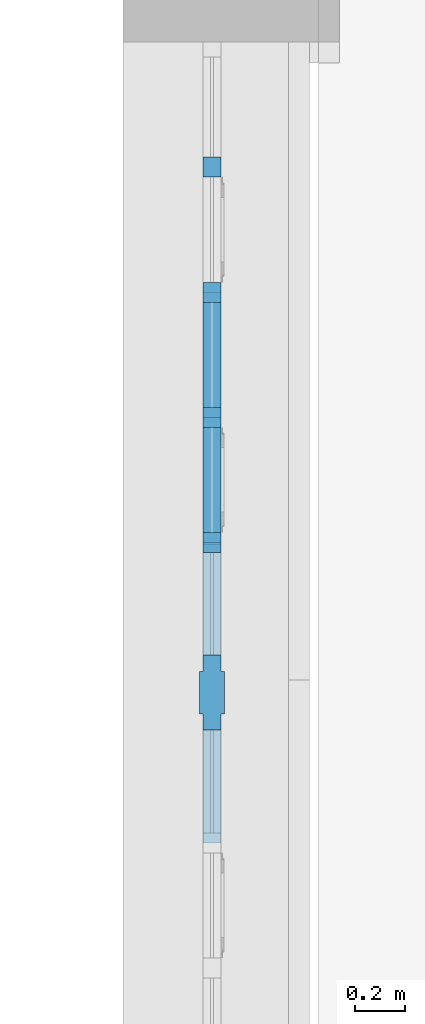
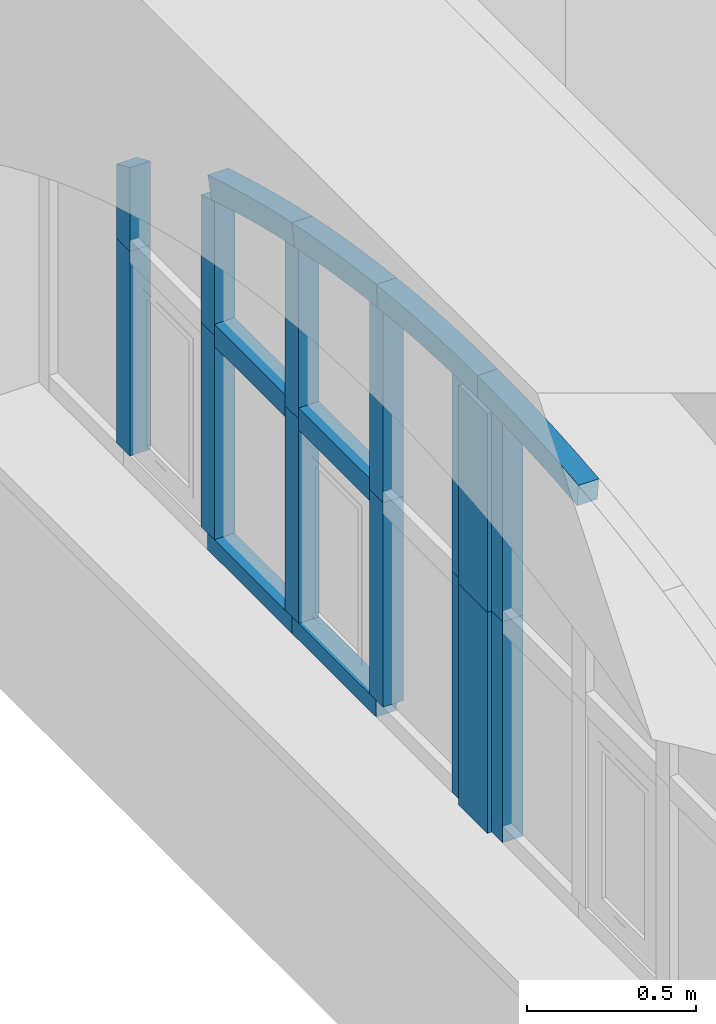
# One storey, part 16 of 32: 18 members, 1 element without a shape of its own.
"""IFC2X3 building model written with IfcOpenShell, lengths in millimetres."""

import ifcopenshell
import ifcopenshell.guid

model = None  # the IFC model being written
_history = None  # IfcOwnerHistory: only IFC2X3 demands one
_inside = {}  # id of a spatial element -> (the spatial element, [elements in it])
_under = {}  # id of a project, library or spatial element -> (it, [spatial elements below it])
_declared = {}  # id of a project -> (the project, [libraries it declares])
_typed = {}  # id of a type object -> (the type object, [elements of that type])
_made_of = {}  # id of a material, layer set ... -> (it, [elements and type objects made of it])


def new_model(schema):
    """Start an empty IFC model of exactly this schema.

    Asked for "IFC4X3", IfcOpenShell would pick the latest addendum, in which some entities
    have other attributes; the version numbers below select the first issue.
    IFC2X3 requires an IfcOwnerHistory on every rooted entity: one is made here for all.
    """
    global model, _history
    if schema == "IFC4X3":
        model = ifcopenshell.file(schema_version=(4, 3, 0, 0))
    else:
        model = ifcopenshell.file(schema=schema)
    _inside.clear()
    _under.clear()
    _declared.clear()
    _typed.clear()
    _made_of.clear()
    _history = None
    if model.schema == "IFC2X3":
        org = make("IfcOrganization", Name="unknown")
        user = make(
            "IfcPersonAndOrganization",
            ThePerson=make("IfcPerson", FamilyName="unknown"),
            TheOrganization=org,
        )
        app = make(
            "IfcApplication",
            ApplicationDeveloper=org,
            Version="unknown",
            ApplicationFullName="unknown",
            ApplicationIdentifier="unknown",
        )
        _history = make(
            "IfcOwnerHistory",
            OwningUser=user,
            OwningApplication=app,
            ChangeAction="ADDED",
            CreationDate=0,
        )
    return model


def make(cls, **values):
    """One entity of the class cls with the attributes given. An attribute that is None is left unset."""
    return model.create_entity(
        cls, **{name: value for name, value in values.items() if value is not None}
    )


def entity(cls, *values):
    """Any entity or typed value of the class cls, its attributes in the order of the schema. None: left unset."""
    e = model.create_entity(cls)
    for i, value in enumerate(values):
        if value is not None:
            e[i] = value
    return e


def rooted(cls, **values):
    """An entity with a GlobalId (a new one), such as an element, a storey or a relation."""
    return make(cls, GlobalId=ifcopenshell.guid.new(), OwnerHistory=_history, **values)


def si_unit(unit_type, name, prefix=None):
    """IfcSIUnit, for example si_unit("LENGTHUNIT", "METRE", prefix="MILLI")."""
    return make("IfcSIUnit", UnitType=unit_type, Prefix=prefix, Name=name)


def converted_unit(unit_type, name, factor, base, dimensions=None, offset=None):
    """IfcConversionBasedUnit, such as the inch: factor (a typed value) times the base unit."""
    return make(
        "IfcConversionBasedUnit"
        if offset is None
        else "IfcConversionBasedUnitWithOffset",
        ConversionOffset=offset,
        Dimensions=None
        if dimensions is None
        else entity("IfcDimensionalExponents", *dimensions),
        UnitType=unit_type,
        Name=name,
        ConversionFactor=make(
            "IfcMeasureWithUnit", ValueComponent=factor, UnitComponent=base
        ),
    )


def derived_unit(unit_type, elements):
    """IfcDerivedUnit: a product of units, each with its exponent."""
    return make(
        "IfcDerivedUnit",
        Elements=[
            make("IfcDerivedUnitElement", Unit=unit, Exponent=power)
            for unit, power in elements
        ],
        UnitType=unit_type,
    )


def assignment(units):
    """IfcUnitAssignment: the units of a project."""
    return None if units is None else make("IfcUnitAssignment", Units=units)


def point(xyz):
    """IfcCartesianPoint."""
    return None if xyz is None else make("IfcCartesianPoint", Coordinates=xyz)


def direction(xyz):
    """IfcDirection."""
    return None if xyz is None else make("IfcDirection", DirectionRatios=xyz)


def frame(location, z_axis=None, x_axis=None):
    """IfcAxis2Placement3D, a coordinate frame: its origin and axes. An axis left out is left unset."""
    return make(
        "IfcAxis2Placement3D",
        Location=point(location),
        Axis=direction(z_axis),
        RefDirection=direction(x_axis),
    )


def frame_2d(location, x_axis=None):
    """IfcAxis2Placement2D, a coordinate frame in the plane: its origin and x axis."""
    return make(
        "IfcAxis2Placement2D", Location=point(location), RefDirection=direction(x_axis)
    )


def origin():
    """The frame at (0, 0, 0) with its axes left unset."""
    return frame((0.0, 0.0, 0.0))


def place(relative_to, where):
    """IfcLocalPlacement: puts the frame where relative to a parent placement (None: the world)."""
    return make(
        "IfcLocalPlacement", PlacementRelTo=relative_to, RelativePlacement=where
    )


def context(
    kind, dimensions, precision=None, world=None, true_north=None, identifier=None
):
    """IfcGeometricRepresentationContext, for example the 3D "Model" context."""
    return make(
        "IfcGeometricRepresentationContext",
        ContextIdentifier=identifier,
        ContextType=kind,
        CoordinateSpaceDimension=dimensions,
        Precision=precision,
        WorldCoordinateSystem=world,
        TrueNorth=true_north,
    )


def subcontext(parent, identifier, kind, view, scale=None):
    """IfcGeometricRepresentationSubContext, for example "Body" below "Model"."""
    return make(
        "IfcGeometricRepresentationSubContext",
        ContextIdentifier=identifier,
        ContextType=kind,
        ParentContext=parent,
        TargetScale=scale,
        TargetView=view,
    )


def project(units=None, contexts=None):
    """IfcProject with its units and contexts."""
    return rooted(
        "IfcProject",
        Name="project",
        RepresentationContexts=contexts,
        UnitsInContext=assignment(units),
    )


def spatial(cls, under=None, at=None, **own):
    """A site, building, storey or space (cls), placed at a placement, below another one or the project."""
    s = rooted(cls, ObjectPlacement=at, **own)
    if under is not None:
        _under.setdefault(under.id(), (under, []))[1].append(s)
    return s


def polyline(points):
    """IfcPolyline through the points."""
    return make("IfcPolyline", Points=[point(p) for p in points])


def circle_curve(where, radius):
    """IfcCircle in the frame where."""
    return make("IfcCircle", Position=where, Radius=radius)


def parameter(value):
    """IfcParameterValue: where a trimmed curve begins or ends, as a parameter of its basis curve."""
    return model.create_entity("IfcParameterValue", value)


def trimmed(basis, trim1, trim2, sense, master):
    """IfcTrimmedCurve: the piece of a basis curve between two trims."""
    return make(
        "IfcTrimmedCurve",
        BasisCurve=basis,
        Trim1=trim1,
        Trim2=trim2,
        SenseAgreement=sense,
        MasterRepresentation=master,
    )


def segment(curve, same_sense, transition):
    """IfcCompositeCurveSegment."""
    return make(
        "IfcCompositeCurveSegment",
        Transition=transition,
        SameSense=same_sense,
        ParentCurve=curve,
    )


def composite_curve(segments, self_intersect=None):
    """IfcCompositeCurve: segments joined end to end."""
    return make("IfcCompositeCurve", Segments=segments, SelfIntersect=self_intersect)


def profile(cls, at=None, kind="AREA", **sizes):
    """A parametric profile (cls). Its sizes go by their IFC names, for example OverallWidth=200.0."""
    return make(cls, ProfileType=kind, Position=at, **sizes)


def rectangle(**sizes):
    """IfcRectangleProfileDef."""
    return profile("IfcRectangleProfileDef", **sizes)


def outline(outer, holes=None, kind="AREA"):
    """IfcArbitraryClosedProfileDef: a profile drawn as a closed curve; with holes, ...WithVoids."""
    if holes is None:
        return make("IfcArbitraryClosedProfileDef", ProfileType=kind, OuterCurve=outer)
    return make(
        "IfcArbitraryProfileDefWithVoids",
        ProfileType=kind,
        OuterCurve=outer,
        InnerCurves=holes,
    )


def extrude(swept, where, along, depth):
    """IfcExtrudedAreaSolid: the profile swept, set in the frame where, extruded along a direction by depth."""
    return make(
        "IfcExtrudedAreaSolid",
        SweptArea=swept,
        Position=where,
        ExtrudedDirection=direction(along),
        Depth=depth,
    )


def faces_of(points, faces, orient=None, outer=None):
    """IfcFace entities. A face is a list of loops; a loop is a list of indices into points, from 0.

    orient and outer hold one flag for each loop. By default every Orientation is true, the
    first loop of a face is its IfcFaceOuterBound and the others are IfcFaceBound.
    """
    made = []
    for i, loops in enumerate(faces):
        bounds = []
        for j, loop in enumerate(loops):
            is_outer = j == 0 if outer is None else outer[i][j]
            bounds.append(
                make(
                    "IfcFaceOuterBound" if is_outer else "IfcFaceBound",
                    Bound=make("IfcPolyLoop", Polygon=[points[k] for k in loop]),
                    Orientation=True if orient is None else orient[i][j],
                )
            )
        made.append(make("IfcFace", Bounds=bounds))
    return made


def faceted_brep(points, faces, orient=None, outer=None, voids=None):
    """IfcFacetedBrep: a solid bounded by flat faces; with voids (closed shells), ...WithVoids."""
    shared = [point(p) for p in points]
    hull = make("IfcClosedShell", CfsFaces=faces_of(shared, faces, orient, outer))
    if voids is None:
        return make("IfcFacetedBrep", Outer=hull)
    return make(
        "IfcFacetedBrepWithVoids",
        Outer=hull,
        Voids=[
            make(cls, CfsFaces=faces_of(shared, fs, o, b)) for cls, fs, o, b in voids
        ],
    )


def shape(context_of_items, identifier, shape_type, items):
    """IfcShapeRepresentation: the items that make up one representation, for example the "Body"."""
    return make(
        "IfcShapeRepresentation",
        ContextOfItems=context_of_items,
        RepresentationIdentifier=identifier,
        RepresentationType=shape_type,
        Items=items,
    )


def source(mapping_origin, context_of_items, identifier, shape_type, items):
    """IfcRepresentationMap: a shape defined once, which mapped items show again and again."""
    return make(
        "IfcRepresentationMap",
        MappingOrigin=mapping_origin,
        MappedRepresentation=shape(context_of_items, identifier, shape_type, items),
    )


def transform(
    local_origin,
    x_axis=None,
    y_axis=None,
    z_axis=None,
    scale=None,
    scale2=None,
    scale3=None,
    uniform=True,
):
    """IfcCartesianTransformationOperator3D, or its non-uniform kind. x_axis, y_axis, z_axis: its Axis1, 2, 3."""
    if uniform:
        return make(
            "IfcCartesianTransformationOperator3D",
            Axis1=direction(x_axis),
            Axis2=direction(y_axis),
            LocalOrigin=point(local_origin),
            Scale=scale,
            Axis3=direction(z_axis),
        )
    return make(
        "IfcCartesianTransformationOperator3DnonUniform",
        Axis1=direction(x_axis),
        Axis2=direction(y_axis),
        LocalOrigin=point(local_origin),
        Scale=scale,
        Axis3=direction(z_axis),
        Scale2=scale2,
        Scale3=scale3,
    )


def mapped(mapping_source, mapping_target):
    """IfcMappedItem: shows the shape of a source again, moved by a transform."""
    return make(
        "IfcMappedItem", MappingSource=mapping_source, MappingTarget=mapping_target
    )


def material(Name=None, Category=None):
    """IfcMaterial."""
    return make("IfcMaterial", Name=Name, Category=Category)


def made_of(thing, what):
    """Note that an element or type object is made of a material, layer set ...; save() writes the relation."""
    if what is not None:
        _made_of.setdefault(what.id(), (what, []))[1].append(thing)
    return thing


def type_object(cls, material=None, **own):
    """A type object (cls), such as IfcWallType, which elements share."""
    return made_of(rooted(cls, **own), material)


def type_shapes(of_type, sources):
    """Give a type object the sources (RepresentationMaps) that its elements show as mapped items."""
    of_type.RepresentationMaps = sources


def element(
    cls,
    number,
    at=None,
    inside=None,
    cuts=None,
    type_object=None,
    material=None,
    context=None,
    identifier="Body",
    shape_type=None,
    held_by="IfcProductDefinitionShape",
    body=None,
    shapes=None,
    **own,
):
    """One element of the class cls, such as IfcWall. Its Tag is "e" and its number.

    at: its placement. inside: the storey or other place that contains it. cuts: it is an
    opening in that element (IfcRelVoidsElement). A single representation is given by context,
    identifier, shape_type and body (its items); several are given by shapes. held_by: the class
    of the entity that holds the representations. save() writes the other relations.
    """
    e = rooted(cls, Tag="e%d" % number, ObjectPlacement=at, **own)
    if body is not None:
        shapes = [shape(context, identifier, shape_type, body)]
    if shapes is not None:
        e.Representation = make(held_by, Representations=shapes)
    if inside is not None:
        _inside.setdefault(inside.id(), (inside, []))[1].append(e)
    if cuts is not None:
        rooted(
            "IfcRelVoidsElement", RelatingBuildingElement=cuts, RelatedOpeningElement=e
        )
    if type_object is not None:
        _typed.setdefault(type_object.id(), (type_object, []))[1].append(e)
    return made_of(e, material)


def aggregate(whole, parts):
    """IfcRelAggregates: a whole, such as a stair, and the parts it consists of."""
    return rooted("IfcRelAggregates", RelatingObject=whole, RelatedObjects=parts)


def save(model, path):
    """Write the relations noted so far, then the file.

    IfcRelAggregates (storeys below a building ...), IfcRelContainedInSpatialStructure (elements
    in a storey), IfcRelDefinesByType, IfcRelAssociatesMaterial and IfcRelDeclares: one each for
    every whole, place, type object, material and project.
    """
    for whole, parts in _under.values():
        aggregate(whole, parts)
    for where, things in _inside.values():
        rooted(
            "IfcRelContainedInSpatialStructure",
            RelatedElements=things,
            RelatingStructure=where,
        )
    for kind, things in _typed.values():
        rooted("IfcRelDefinesByType", RelatedObjects=things, RelatingType=kind)
    for what, things in _made_of.values():
        rooted("IfcRelAssociatesMaterial", RelatedObjects=things, RelatingMaterial=what)
    for by, libraries in _declared.values():
        rooted("IfcRelDeclares", RelatingContext=by, RelatedDefinitions=libraries)
    model.write(path)


model = new_model("IFC2X3")

# Units and contexts
model_context = context("Model", 3, precision=0.01, world=origin(), true_north=direction((6.123031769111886e-17, 1.0)))
body_context = subcontext(model_context, "Body", "Model", "MODEL_VIEW")
ifc_project = project(units=[si_unit("LENGTHUNIT", "METRE", prefix="MILLI"), si_unit("AREAUNIT", "SQUARE_METRE"), si_unit("VOLUMEUNIT", "CUBIC_METRE"), converted_unit("PLANEANGLEUNIT", "DEGREE", entity("IfcPlaneAngleMeasure", 0.017453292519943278), si_unit("PLANEANGLEUNIT", "RADIAN"), dimensions=[0, 0, 0, 0, 0, 0, 0]), si_unit("MASSUNIT", "GRAM", prefix="KILO"), derived_unit("MASSDENSITYUNIT", [(si_unit("MASSUNIT", "GRAM", prefix="KILO"), 1), (si_unit("LENGTHUNIT", "METRE"), -3)]), derived_unit("IONCONCENTRATIONUNIT", [(si_unit("MASSUNIT", "GRAM", prefix="KILO"), 1), (si_unit("LENGTHUNIT", "METRE"), -3)]), derived_unit("MOMENTOFINERTIAUNIT", [(si_unit("LENGTHUNIT", "METRE"), 4)]), si_unit("TIMEUNIT", "SECOND"), si_unit("FREQUENCYUNIT", "HERTZ"), si_unit("THERMODYNAMICTEMPERATUREUNIT", "DEGREE_CELSIUS"), derived_unit("THERMALTRANSMITTANCEUNIT", [(si_unit("MASSUNIT", "GRAM", prefix="KILO"), 1), (si_unit("THERMODYNAMICTEMPERATUREUNIT", "KELVIN"), -1), (si_unit("TIMEUNIT", "SECOND"), -3)]), derived_unit("THERMALCONDUCTANCEUNIT", [(si_unit("MASSUNIT", "GRAM", prefix="KILO"), 1), (si_unit("THERMODYNAMICTEMPERATUREUNIT", "KELVIN"), -1), (si_unit("TIMEUNIT", "SECOND"), -3), (si_unit("LENGTHUNIT", "METRE"), 1)]), derived_unit("VOLUMETRICFLOWRATEUNIT", [(si_unit("LENGTHUNIT", "METRE", prefix="DECI"), 3), (si_unit("TIMEUNIT", "SECOND"), -1)]), derived_unit("MASSFLOWRATEUNIT", [(si_unit("MASSUNIT", "GRAM", prefix="KILO"), 1), (si_unit("TIMEUNIT", "SECOND"), -1)]), derived_unit("ROTATIONALFREQUENCYUNIT", [(si_unit("TIMEUNIT", "SECOND"), -1)]), si_unit("ELECTRICCURRENTUNIT", "AMPERE"), si_unit("ELECTRICVOLTAGEUNIT", "VOLT"), si_unit("POWERUNIT", "WATT"), si_unit("FORCEUNIT", "NEWTON", prefix="KILO"), si_unit("ILLUMINANCEUNIT", "LUX"), si_unit("LUMINOUSFLUXUNIT", "LUMEN"), si_unit("LUMINOUSINTENSITYUNIT", "CANDELA"), si_unit("ENERGYUNIT", "JOULE"), derived_unit("USERDEFINED", [(si_unit("MASSUNIT", "GRAM", prefix="KILO"), -1), (si_unit("LENGTHUNIT", "METRE"), -2), (si_unit("TIMEUNIT", "SECOND"), 3), (si_unit("LUMINOUSFLUXUNIT", "LUMEN"), 1)]), derived_unit("USERDEFINED", [(si_unit("MASSUNIT", "GRAM", prefix="KILO"), 1), (si_unit("TIMEUNIT", "SECOND"), -3), (si_unit("LENGTHUNIT", "METRE"), 3), (si_unit("ELECTRICCURRENTUNIT", "AMPERE"), -2)]), derived_unit("SOUNDPOWERUNIT", [(si_unit("MASSUNIT", "GRAM", prefix="KILO"), 1), (si_unit("TIMEUNIT", "SECOND"), -3), (si_unit("LENGTHUNIT", "METRE"), 2)]), derived_unit("SOUNDPRESSUREUNIT", [(si_unit("MASSUNIT", "GRAM", prefix="KILO"), 1), (si_unit("LENGTHUNIT", "METRE"), -1), (si_unit("TIMEUNIT", "SECOND"), -2)]), derived_unit("LINEARVELOCITYUNIT", [(si_unit("LENGTHUNIT", "METRE"), 1), (si_unit("TIMEUNIT", "SECOND"), -1)]), si_unit("PRESSUREUNIT", "PASCAL"), derived_unit("USERDEFINED", [(si_unit("MASSUNIT", "GRAM", prefix="KILO"), 1), (si_unit("LENGTHUNIT", "METRE"), -2), (si_unit("TIMEUNIT", "SECOND"), -2)]), derived_unit("LINEARFORCEUNIT", [(si_unit("MASSUNIT", "GRAM", prefix="KILO"), 1), (si_unit("TIMEUNIT", "SECOND"), -2)]), derived_unit("PLANARFORCEUNIT", [(si_unit("MASSUNIT", "GRAM", prefix="KILO"), 1), (si_unit("LENGTHUNIT", "METRE"), -1), (si_unit("TIMEUNIT", "SECOND"), -2)]), derived_unit("SPECIFICHEATCAPACITYUNIT", [(si_unit("THERMODYNAMICTEMPERATUREUNIT", "KELVIN"), -1), (si_unit("LENGTHUNIT", "METRE"), 2), (si_unit("TIMEUNIT", "SECOND"), -2)]), derived_unit("HEATFLUXDENSITYUNIT", [(si_unit("MASSUNIT", "GRAM", prefix="KILO"), 1), (si_unit("TIMEUNIT", "SECOND"), -3)]), derived_unit("HEATINGVALUEUNIT", [(si_unit("LENGTHUNIT", "METRE"), 2), (si_unit("TIMEUNIT", "SECOND"), -2)]), derived_unit("VAPORPERMEABILITYUNIT", [(si_unit("LENGTHUNIT", "METRE"), -1), (si_unit("TIMEUNIT", "SECOND"), 1)]), derived_unit("DYNAMICVISCOSITYUNIT", [(si_unit("MASSUNIT", "GRAM", prefix="KILO"), 1), (si_unit("TIMEUNIT", "SECOND"), -1), (si_unit("LENGTHUNIT", "METRE"), -1)]), derived_unit("THERMALEXPANSIONCOEFFICIENTUNIT", [(si_unit("THERMODYNAMICTEMPERATUREUNIT", "KELVIN"), -1)]), derived_unit("MODULUSOFELASTICITYUNIT", [(si_unit("MASSUNIT", "GRAM", prefix="KILO"), 1), (si_unit("LENGTHUNIT", "METRE"), -1), (si_unit("TIMEUNIT", "SECOND"), -2)]), derived_unit("ISOTHERMALMOISTURECAPACITYUNIT", [(si_unit("MASSUNIT", "GRAM", prefix="KILO"), -1), (si_unit("LENGTHUNIT", "METRE"), 3)]), derived_unit("MOISTUREDIFFUSIVITYUNIT", [(si_unit("TIMEUNIT", "SECOND"), -1), (si_unit("LENGTHUNIT", "METRE"), 2)]), derived_unit("MASSPERLENGTHUNIT", [(si_unit("MASSUNIT", "GRAM", prefix="KILO"), 1), (si_unit("LENGTHUNIT", "METRE"), -1)]), derived_unit("THERMALRESISTANCEUNIT", [(si_unit("MASSUNIT", "GRAM", prefix="KILO"), -1), (si_unit("TIMEUNIT", "SECOND"), 3), (si_unit("THERMODYNAMICTEMPERATUREUNIT", "KELVIN"), 1)]), derived_unit("ACCELERATIONUNIT", [(si_unit("LENGTHUNIT", "METRE"), 1), (si_unit("TIMEUNIT", "SECOND"), -2)]), derived_unit("ANGULARVELOCITYUNIT", [(si_unit("TIMEUNIT", "SECOND"), -1), (si_unit("PLANEANGLEUNIT", "RADIAN"), 1)]), derived_unit("LINEARSTIFFNESSUNIT", [(si_unit("MASSUNIT", "GRAM", prefix="KILO"), 1), (si_unit("TIMEUNIT", "SECOND"), -2)]), derived_unit("WARPINGCONSTANTUNIT", [(si_unit("LENGTHUNIT", "METRE"), 6)]), derived_unit("LINEARMOMENTUNIT", [(si_unit("MASSUNIT", "GRAM", prefix="KILO"), 1), (si_unit("LENGTHUNIT", "METRE"), 1), (si_unit("TIMEUNIT", "SECOND"), -2)]), derived_unit("TORQUEUNIT", [(si_unit("MASSUNIT", "GRAM", prefix="KILO"), 1), (si_unit("LENGTHUNIT", "METRE"), 2), (si_unit("TIMEUNIT", "SECOND"), -2)])], contexts=[model_context])

# Site, building, storey
site_placement = place(None, origin())
site = spatial("IfcSite", under=ifc_project, at=site_placement, Name="Default", CompositionType="ELEMENT")
building_placement = place(site_placement, origin())
building = spatial("IfcBuilding", under=site, at=building_placement, Name="Eesti Rahvusraamatukogu hoone renoveerimise projekteerimistööd", CompositionType="ELEMENT")
storey_placement = place(building_placement, frame((0.0, 0.0, 4950.000000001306)))
storey = spatial("IfcBuildingStorey", under=building, at=storey_placement, Name="2. korrus", CompositionType="ELEMENT", Elevation=4950.000000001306)

# Curtain wall, members
curtain_wall_type = type_object("IfcCurtainWallType", Name="Curtain Wall:Ak-04", PredefinedType="NOTDEFINED")
curtain_wall_placement = place(storey_placement, frame((0.0, 0.0, -4950.000000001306)))
curtain_wall = element("IfcCurtainWall", 1, at=curtain_wall_placement, inside=storey, type_object=curtain_wall_type, Name="Curtain Wall:Ak-04", ObjectType="Curtain Wall:Ak-04")
ifc_material = material(Name="LUMION_dark steel window frames")
member_type_1 = type_object("IfcMemberType", Name="Rectangular Mullion:NEW 80x70mm", PredefinedType="MULLION", material=ifc_material)
shared_shape_1 = source(origin(), body_context, "Body", "SweptSolid", [
    extrude(rectangle(XDim=80.0, YDim=70.0, at=frame_2d((0.0, -3.552713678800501e-15), x_axis=(1.0, 0.0))), frame((0.0, 0.0, -420.0), z_axis=(0.0, 0.0, 1.0), x_axis=(-1.0, 0.0, 0.0)), (0.0, 0.0, 1.0), 419.999999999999),
])
type_shapes(member_type_1, [shared_shape_1])
member_1_placement = place(curtain_wall_placement, frame((-36425.0, 39997.50000000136, 6550.000000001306), z_axis=(0.0, -1.0, 0.0), x_axis=(0.0, 0.0, 1.0)))
member_1 = element("IfcMember", 2, at=member_1_placement, type_object=member_type_1, material=ifc_material, Name="Rectangular Mullion:NEW 80x70mm", ObjectType="Rectangular Mullion:NEW 80x70mm", context=body_context, shape_type="MappedRepresentation", body=[
    mapped(shared_shape_1, transform((0.0, 0.0, 0.0), scale=1.0)),
])
member_2_placement = place(curtain_wall_placement, frame((-36425.0, 40497.50000000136, 6550.000000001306), z_axis=(0.0, -1.0, 0.0), x_axis=(0.0, 0.0, 1.0)))
member_2 = element("IfcMember", 3, at=member_2_placement, type_object=member_type_1, material=ifc_material, Name="Rectangular Mullion:NEW 80x70mm", ObjectType="Rectangular Mullion:NEW 80x70mm", context=body_context, shape_type="MappedRepresentation", body=[
    mapped(shared_shape_1, transform((0.0, 0.0, 0.0), scale=1.0)),
])
member_type_2 = type_object("IfcMemberType", Name="Rectangular Mullion:NEW 60x70mm", PredefinedType="MULLION", material=ifc_material)
shared_shape_2 = source(origin(), body_context, "Body", "SweptSolid", [
    extrude(rectangle(XDim=60.0, YDim=70.0, at=frame_2d((0.0, 3.552713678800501e-15), x_axis=(1.0, 0.0))), frame((-30.0, 0.0, -500.0), z_axis=(0.0, 0.0, 1.0), x_axis=(-1.0, 0.0, 0.0)), (0.0, 0.0, 1.0), 499.999999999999),
])
type_shapes(member_type_2, [shared_shape_2])
member_3_placement = place(curtain_wall_placement, frame((-36425.0, 40457.50000000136, 5750.000000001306), z_axis=(0.0, 1.0, 0.0), x_axis=(0.0, 0.0, -1.0)))
member_3 = element("IfcMember", 4, at=member_3_placement, type_object=member_type_2, material=ifc_material, Name="Rectangular Mullion:NEW 60x70mm", ObjectType="Rectangular Mullion:NEW 60x70mm", context=body_context, shape_type="MappedRepresentation", body=[
    mapped(shared_shape_2, transform((0.0, 0.0, 0.0), scale=1.0)),
])
member_4_placement = place(curtain_wall_placement, frame((-36425.0, 40957.50000000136, 5750.000000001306), z_axis=(0.0, 1.0, 0.0), x_axis=(0.0, 0.0, -1.0)))
member_4 = element("IfcMember", 5, at=member_4_placement, type_object=member_type_2, material=ifc_material, Name="Rectangular Mullion:NEW 60x70mm", ObjectType="Rectangular Mullion:NEW 60x70mm", context=body_context, shape_type="MappedRepresentation", body=[
    mapped(shared_shape_2, transform((0.0, 0.0, 0.0), scale=1.0)),
])
member_type_3 = type_object("IfcMemberType", Name="Rectangular Mullion:NEW 80x70mm", PredefinedType="MULLION", material=ifc_material)
shared_shape_3 = source(origin(), body_context, "Body", "SweptSolid", [
    extrude(rectangle(XDim=80.0, YDim=70.0, at=frame_2d((0.0, -3.552713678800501e-15), x_axis=(1.0, 0.0))), frame((0.0, 0.0, -740.0), z_axis=(0.0, 0.0, 1.0), x_axis=(-1.0, 0.0, 0.0)), (0.0, 0.0, 1.0), 740.0),
])
type_shapes(member_type_3, [shared_shape_3])
member_5_placement = place(curtain_wall_placement, frame((-36425.0, 39957.50000000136, 5810.000000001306), z_axis=(0.0, 0.0, -1.0), x_axis=(0.0, -1.0, 0.0)))
member_5 = element("IfcMember", 6, at=member_5_placement, type_object=member_type_3, material=ifc_material, Name="Rectangular Mullion:NEW 80x70mm", ObjectType="Rectangular Mullion:NEW 80x70mm", context=body_context, shape_type="MappedRepresentation", body=[
    mapped(shared_shape_3, transform((0.0, 0.0, 0.0), scale=1.0)),
])
member_6_placement = place(curtain_wall_placement, frame((-36425.0, 40457.50000000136, 5810.000000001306), z_axis=(0.0, 0.0, -1.0), x_axis=(0.0, -1.0, 0.0)))
member_6 = element("IfcMember", 7, at=member_6_placement, type_object=member_type_3, material=ifc_material, Name="Rectangular Mullion:NEW 80x70mm", ObjectType="Rectangular Mullion:NEW 80x70mm", context=body_context, shape_type="MappedRepresentation", body=[
    mapped(shared_shape_3, transform((0.0, 0.0, 0.0), scale=1.0)),
])
member_7_placement = place(curtain_wall_placement, frame((-36425.0, 40957.50000000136, 5810.000000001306), z_axis=(0.0, 0.0, -1.0), x_axis=(0.0, -1.0, 0.0)))
member_7 = element("IfcMember", 8, at=member_7_placement, type_object=member_type_3, material=ifc_material, Name="Rectangular Mullion:NEW 80x70mm", ObjectType="Rectangular Mullion:NEW 80x70mm", context=body_context, shape_type="MappedRepresentation", body=[
    mapped(shared_shape_3, transform((0.0, 0.0, 0.0), scale=1.0)),
])
member_8_placement = place(curtain_wall_placement, frame((-36425.0, 41457.50000000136, 5810.000000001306), z_axis=(0.0, 0.0, -1.0), x_axis=(0.0, -1.0, 0.0)))
member_8 = element("IfcMember", 9, at=member_8_placement, type_object=member_type_3, material=ifc_material, Name="Rectangular Mullion:NEW 80x70mm", ObjectType="Rectangular Mullion:NEW 80x70mm", context=body_context, shape_type="MappedRepresentation", body=[
    mapped(shared_shape_3, transform((0.0, 0.0, 0.0), scale=1.0)),
])
member_type_4 = type_object("IfcMemberType", Name="Rectangular Mullion:NEW 80x70mm", PredefinedType="MULLION", material=ifc_material)
shared_shape_4 = source(origin(), body_context, "Body", "SweptSolid", [
    extrude(outline(composite_curve([segment(polyline([(-411.6963002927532, -38.21553912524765), (278.6344972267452, -38.21553912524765)]), True, "CONTINUOUS"), segment(trimmed(circle_curve(frame_2d((-4991.472419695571, -598.2155391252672), x_axis=(1.0, 0.0)), 5299.776119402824), [parameter(6.065472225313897)], [parameter(6.403451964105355)], True, "PARAMETER"), True, "CONTINUOUS"), segment(trimmed(circle_curve(frame_2d((-4991.472419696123, -598.2155391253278), x_axis=(0.9937612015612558, 0.11152880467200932)), 5299.776119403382), [parameter(0.0)], [parameter(0.532503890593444)], True, "PARAMETER"), True, "CONTINUOUS"), segment(polyline([(269.51863863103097, 41.78446087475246), (-411.6963002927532, 41.78446087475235)]), True, "CONTINUOUS"), segment(polyline([(-411.6963002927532, 41.78446087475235), (-411.6963002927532, -38.21553912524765)]), True, "CONTINUOUS")], self_intersect=False)), frame((1.7844608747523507, -35.0, -411.6963002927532), z_axis=(0.0, 1.0, 0.0), x_axis=(0.0, 0.0, -1.0)), (0.0, 0.0, 1.0), 69.99999999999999),
])
type_shapes(member_type_4, [shared_shape_4])
member_9_placement = place(curtain_wall_placement, frame((-36425.0, 39957.50000000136, 6550.000000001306), z_axis=(0.0, 0.0, -1.0), x_axis=(0.0, -1.0, 0.0)))
member_9 = element("IfcMember", 10, at=member_9_placement, type_object=member_type_4, material=ifc_material, Name="Rectangular Mullion:NEW 80x70mm", ObjectType="Rectangular Mullion:NEW 80x70mm", context=body_context, shape_type="MappedRepresentation", body=[
    mapped(shared_shape_4, transform((0.0, 0.0, 0.0), scale=1.0)),
])
member_type_5 = type_object("IfcMemberType", Name="Rectangular Mullion:NEW 80x70mm", PredefinedType="MULLION", material=ifc_material)
shared_shape_5 = source(origin(), body_context, "Body", "SweptSolid", [
    extrude(outline(composite_curve([segment(polyline([(-363.376788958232, -36.72848839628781), (249.53684896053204, -36.72848839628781)]), True, "CONTINUOUS"), segment(trimmed(circle_curve(frame_2d((-4943.152908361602, -1096.7284883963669), x_axis=(0.9937612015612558, 0.11152880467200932)), 5299.776119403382), [parameter(5.134001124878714)], [parameter(5.394992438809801)], True, "PARAMETER"), True, "CONTINUOUS"), segment(trimmed(circle_curve(frame_2d((-4943.152908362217, -1096.7284883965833), x_axis=(0.9788729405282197, 0.20446947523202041)), 5299.776119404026), [parameter(0.0)], [parameter(0.6231507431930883)], True, "PARAMETER"), True, "CONTINUOUS"), segment(polyline([(232.5622031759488, 43.27151160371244), (-363.376788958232, 43.27151160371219)]), True, "CONTINUOUS"), segment(polyline([(-363.376788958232, 43.27151160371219), (-363.376788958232, -36.72848839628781)]), True, "CONTINUOUS")], self_intersect=False)), frame((3.2715116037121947, -35.0, -363.376788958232), z_axis=(0.0, 1.0, 0.0), x_axis=(0.0, 0.0, -1.0)), (0.0, 0.0, 1.0), 69.99999999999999),
])
type_shapes(member_type_5, [shared_shape_5])
member_10_placement = place(curtain_wall_placement, frame((-36425.0, 40457.50000000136, 6550.000000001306), z_axis=(0.0, 0.0, -1.0), x_axis=(0.0, -1.0, 0.0)))
member_10 = element("IfcMember", 11, at=member_10_placement, type_object=member_type_5, material=ifc_material, Name="Rectangular Mullion:NEW 80x70mm", ObjectType="Rectangular Mullion:NEW 80x70mm", context=body_context, shape_type="MappedRepresentation", body=[
    mapped(shared_shape_5, transform((0.0, 0.0, 0.0), scale=1.0)),
])
member_type_6 = type_object("IfcMemberType", Name="Rectangular Mullion:NEW 80x70mm", PredefinedType="MULLION", material=ifc_material)
shared_shape_6 = source(origin(), body_context, "Body", "SweptSolid", [
    extrude(outline(composite_curve([segment(polyline([(-285.0515721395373, -35.24143766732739), (200.1527542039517, -35.24143766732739)]), True, "CONTINUOUS"), segment(trimmed(circle_curve(frame_2d((-4864.827691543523, -1595.241437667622), x_axis=(0.9788729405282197, 0.20446947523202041)), 5299.776119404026), [parameter(5.320243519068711)], [parameter(5.503672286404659)], True, "PARAMETER"), True, "CONTINUOUS"), segment(trimmed(circle_curve(frame_2d((-4864.827691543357, -1595.2414376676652), x_axis=(0.9547498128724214, 0.2974101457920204)), 5299.776119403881), [parameter(0.0)], [parameter(0.7237926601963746)], True, "PARAMETER"), True, "CONTINUOUS"), segment(polyline([(174.8178233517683, 44.758562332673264), (-285.0515721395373, 44.75856233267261)]), True, "CONTINUOUS"), segment(polyline([(-285.0515721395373, 44.75856233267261), (-285.0515721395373, -35.24143766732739)]), True, "CONTINUOUS")], self_intersect=False)), frame((4.758562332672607, -35.0, -285.0515721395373), z_axis=(0.0, 1.0, 0.0), x_axis=(0.0, 0.0, -1.0)), (0.0, 0.0, 1.0), 70.00000000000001),
])
type_shapes(member_type_6, [shared_shape_6])
member_11_placement = place(curtain_wall_placement, frame((-36425.0, 40957.50000000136, 6550.000000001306), z_axis=(0.0, 0.0, -1.0), x_axis=(0.0, -1.0, 0.0)))
member_11 = element("IfcMember", 12, at=member_11_placement, type_object=member_type_6, material=ifc_material, Name="Rectangular Mullion:NEW 80x70mm", ObjectType="Rectangular Mullion:NEW 80x70mm", context=body_context, shape_type="MappedRepresentation", body=[
    mapped(shared_shape_6, transform((0.0, 0.0, 0.0), scale=1.0)),
])
member_type_7 = type_object("IfcMemberType", Name="Rectangular Mullion:NEW 80x70mm", PredefinedType="MULLION", material=ifc_material)
shared_shape_7 = source(origin(), body_context, "Body", "SweptSolid", [
    extrude(outline(composite_curve([segment(polyline([(-174.3077299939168, -33.75438693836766), (128.95075172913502, -33.75438693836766)]), True, "CONTINUOUS"), segment(trimmed(circle_curve(frame_2d((-4754.083849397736, -2093.7543869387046), x_axis=(0.9547498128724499, 0.2974101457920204)), 5299.776119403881), [parameter(5.5712474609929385)], [parameter(5.674213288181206)], True, "PARAMETER"), True, "CONTINUOUS"), segment(trimmed(circle_curve(frame_2d((-4754.083849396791, -2093.7543869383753), x_axis=(0.9206661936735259, 0.39035081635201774)), 5299.7761194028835), [parameter(0.0)], [parameter(0.8390347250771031)], True, "PARAMETER"), True, "CONTINUOUS"), segment(polyline([(94.42385048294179, 46.245613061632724), (-174.3077299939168, 46.24561306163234)]), True, "CONTINUOUS"), segment(polyline([(-174.3077299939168, 46.24561306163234), (-174.3077299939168, -33.75438693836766)]), True, "CONTINUOUS")], self_intersect=False)), frame((6.245613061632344, -35.0, -174.3077299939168), z_axis=(0.0, 1.0, 0.0), x_axis=(0.0, 0.0, -1.0)), (0.0, 0.0, 1.0), 70.00000000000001),
])
type_shapes(member_type_7, [shared_shape_7])
member_12_placement = place(curtain_wall_placement, frame((-36425.0, 41457.50000000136, 6550.000000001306), z_axis=(0.0, 0.0, -1.0), x_axis=(0.0, -1.0, 0.0)))
member_12 = element("IfcMember", 13, at=member_12_placement, type_object=member_type_7, material=ifc_material, Name="Rectangular Mullion:NEW 80x70mm", ObjectType="Rectangular Mullion:NEW 80x70mm", context=body_context, shape_type="MappedRepresentation", body=[
    mapped(shared_shape_7, transform((0.0, 0.0, 0.0), scale=1.0)),
])
member_type_8 = type_object("IfcMemberType", Name="Rectangular Mullion:NEW 80x70mm", PredefinedType="MULLION", material=ifc_material)
shared_shape_8 = source(origin(), body_context, "Body", "SweptSolid", [
    extrude(outline(composite_curve([segment(polyline([(-51.82710825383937, -251.02635265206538), (28.172891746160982, -251.0263526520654)]), True, "CONTINUOUS"), segment(trimmed(circle_curve(frame_2d((5327.949011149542, -251.0263526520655), x_axis=(-0.995570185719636, 0.09402130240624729)), 5299.776119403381), [parameter(3.5622212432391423e-13)], [parameter(5.394992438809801)], True, "PARAMETER"), False, "CONTINUOUS"), segment(polyline([(51.649915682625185, 247.26550055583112), (-27.99569917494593, 254.78720474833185)]), True, "CONTINUOUS"), segment(trimmed(circle_curve(frame_2d((5327.949011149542, -251.0263526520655), x_axis=(-0.995570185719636, 0.09402130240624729)), 5379.776119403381), [parameter(3.5622212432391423e-13)], [parameter(5.394992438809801)], True, "PARAMETER"), True, "CONTINUOUS")], self_intersect=False)), frame((-51.827108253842, -35.0, -251.0263526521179), z_axis=(0.0, 1.0, 0.0), x_axis=(-0.9955701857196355, 0.0, 0.09402130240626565)), (0.0, 0.0, 1.0), 69.99999999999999),
])
type_shapes(member_type_8, [shared_shape_8])
member_13_placement = place(curtain_wall_placement, frame((-36425.0, 39957.50000000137, 7316.436661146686), z_axis=(0.0, -0.9937612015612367, 0.11152880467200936), x_axis=(0.0, 0.11152880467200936, 0.9937612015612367)))
member_13 = element("IfcMember", 14, at=member_13_placement, type_object=member_type_8, material=ifc_material, Name="Rectangular Mullion:NEW 80x70mm", ObjectType="Rectangular Mullion:NEW 80x70mm", context=body_context, shape_type="MappedRepresentation", body=[
    mapped(shared_shape_8, transform((0.0, 0.0, 0.0), scale=1.0)),
])
member_type_9 = type_object("IfcMemberType", Name="Rectangular Mullion:NEW 80x70mm", PredefinedType="MULLION", material=ifc_material)
shared_shape_9 = source(origin(), body_context, "Body", "SweptSolid", [
    extrude(outline(composite_curve([segment(polyline([(-52.308041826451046, -256.0677643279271), (27.6919581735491, -256.0677643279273)]), True, "CONTINUOUS"), segment(trimmed(circle_curve(frame_2d((5327.468077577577, -256.0677643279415), x_axis=(-0.995390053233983, 0.09590955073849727)), 5299.776119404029), [parameter(3.5622212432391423e-13)], [parameter(5.503672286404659)], True, "PARAMETER"), False, "CONTINUOUS"), segment(polyline([(52.12364395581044, 252.23138229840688), (-27.50756030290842, 259.90414635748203)]), True, "CONTINUOUS"), segment(trimmed(circle_curve(frame_2d((5327.468077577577, -256.0677643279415), x_axis=(-0.995390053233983, 0.09590955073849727)), 5379.776119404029), [parameter(3.5622212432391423e-13)], [parameter(5.503672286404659)], True, "PARAMETER"), True, "CONTINUOUS")], self_intersect=False)), frame((-52.30804182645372, -35.0, -256.0677643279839), z_axis=(0.0, 1.0, 0.0), x_axis=(-0.9953900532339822, 0.0, 0.09590955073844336)), (0.0, 0.0, 1.0), 69.99999999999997),
])
type_shapes(member_type_9, [shared_shape_9])
member_14_placement = place(curtain_wall_placement, frame((-36425.0, 40457.500000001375, 7236.341149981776), z_axis=(0.0, -0.978872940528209, 0.20446947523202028), x_axis=(0.0, 0.20446947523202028, 0.978872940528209)))
member_14 = element("IfcMember", 15, at=member_14_placement, type_object=member_type_9, material=ifc_material, Name="Rectangular Mullion:NEW 80x70mm", ObjectType="Rectangular Mullion:NEW 80x70mm", context=body_context, shape_type="MappedRepresentation", body=[
    mapped(shared_shape_9, transform((0.0, 0.0, 0.0), scale=1.0)),
])
member_type_10 = type_object("IfcMemberType", Name="Rectangular Mullion:NEW 300x100mm", PredefinedType="MULLION", material=ifc_material)
shared_shape_10 = source(origin(), body_context, "Body", "Brep", [
    faceted_brep([(-85.0, -50.0, 0.0), (85.0, -50.0, 0.0), (85.0, -35.0, 0.0), (150.0, -35.0, 0.0), (150.0, 35.0, 0.0), (85.0, 35.0, 0.0), (85.0, 50.0, 0.0), (-85.0, 50.0, 0.0), (-85.0, 35.0, 0.0), (-150.0, 35.0, 0.0), (-150.0, -35.0, 0.0), (-85.0, -35.0, 0.0), (-85.0, 35.0, -719.3183235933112), (-117.50221047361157, 35.0, -718.6972594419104), (-150.0, 35.0, -717.8768435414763), (150.0, 35.0, -717.8768435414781), (117.50221047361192, 35.0, -718.6972594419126), (85.0, 35.0, -719.3183235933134), (-150.0, -35.0, -717.8768435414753), (-117.50221047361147, -35.0, -718.6972594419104), (-85.0, -35.0, -719.3183235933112), (85.0, -35.0, -719.3183235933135), (117.50221047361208, -35.0, -718.6972594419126), (150.0, -35.0, -717.8768435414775), (-85.0, -50.0, -719.3183235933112), (-85.0, 50.0, -719.3183235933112), (-42.50068337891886, -50.0, -719.8295836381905), (0.0, -50.0, -720.0), (42.500683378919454, -50.0, -719.8295836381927), (85.0, -50.0, -719.3183235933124), (85.0, 50.0, -719.3183235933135), (42.500683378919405, 50.0, -719.8295836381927), (0.0, 50.0, -720.0), (-42.500683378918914, 50.0, -719.8295836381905)], [[[0, 1, 2, 3, 4, 5, 6, 7, 8, 9, 10, 11]], [[9, 8, 12, 13, 14]], [[5, 4, 15, 16, 17]], [[10, 9, 14, 18]], [[11, 10, 18, 19, 20]], [[3, 2, 21, 22, 23]], [[0, 11, 20, 24]], [[8, 7, 25, 12]], [[1, 0, 24, 26, 27, 28, 29]], [[2, 1, 29, 21]], [[6, 5, 17, 30]], [[4, 3, 23, 15]], [[7, 6, 30, 31, 32, 33, 25]], [[33, 32, 27, 26]], [[20, 12, 25, 33, 26, 24]], [[20, 19, 13, 12]], [[19, 18, 14, 13]], [[15, 23, 22, 16]], [[16, 22, 21, 17]], [[21, 29, 28, 31, 30, 17]], [[31, 28, 27, 32]]]),
])
type_shapes(member_type_10, [shared_shape_10])
member_15_placement = place(curtain_wall_placement, frame((-36425.0, 39357.50000000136, 6550.000000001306), z_axis=(0.0, 0.0, -1.0), x_axis=(0.0, -1.0, 0.0)))
member_15 = element("IfcMember", 16, at=member_15_placement, type_object=member_type_10, material=ifc_material, Name="Rectangular Mullion:NEW 300x100mm", ObjectType="Rectangular Mullion:NEW 300x100mm", context=body_context, shape_type="MappedRepresentation", body=[
    mapped(shared_shape_10, transform((0.0, 0.0, 0.0), scale=1.0)),
])
member_type_11 = type_object("IfcMemberType", Name="Rectangular Mullion:NEW 300x100mm", PredefinedType="MULLION", material=ifc_material)
shared_shape_11 = source(origin(), body_context, "Body", "SweptSolid", [
    extrude(outline(polyline([(85.0, -35.0), (150.0, -35.0), (150.0, 35.0), (85.0, 35.0), (85.0, 50.0), (-85.0, 50.0), (-85.0, 35.0), (-150.0, 35.0), (-150.0, -35.0), (-85.0, -35.0), (-85.0, -50.0), (85.0, -50.0), (85.0, -35.0)])), frame((0.0, 0.0, -800.0), z_axis=(0.0, 0.0, 1.0), x_axis=(-1.0, 0.0, 0.0)), (0.0, 0.0, 1.0), 800.0),
])
type_shapes(member_type_11, [shared_shape_11])
member_16_placement = place(curtain_wall_placement, frame((-36425.0, 39357.50000000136, 5750.000000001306), z_axis=(0.0, 0.0, -1.0), x_axis=(0.0, -1.0, 0.0)))
member_16 = element("IfcMember", 17, at=member_16_placement, type_object=member_type_11, material=ifc_material, Name="Rectangular Mullion:NEW 300x100mm", ObjectType="Rectangular Mullion:NEW 300x100mm", context=body_context, shape_type="MappedRepresentation", body=[
    mapped(shared_shape_11, transform((0.0, 0.0, 0.0), scale=1.0)),
])
member_type_12 = type_object("IfcMemberType", Name="Rectangular Mullion:NEW 80x70mm", PredefinedType="MULLION", material=ifc_material)
shared_shape_12 = source(origin(), body_context, "Body", "SweptSolid", [
    extrude(outline(composite_curve([segment(polyline([(-56.65689345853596, -297.7694239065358), (23.343106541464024, -297.7694239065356)]), True, "CONTINUOUS"), segment(trimmed(circle_curve(frame_2d((5323.119225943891, -297.7694239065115), x_axis=(-0.9937612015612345, 0.11152880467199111)), 5299.776119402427), [parameter(3.5622212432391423e-13)], [parameter(6.4034519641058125)], True, "PARAMETER"), False, "CONTINUOUS"), segment(polyline([(56.40734152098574, 293.3082717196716), (-23.093554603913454, 302.230576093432)]), True, "CONTINUOUS"), segment(trimmed(circle_curve(frame_2d((5323.119225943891, -297.7694239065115), x_axis=(-0.9937612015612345, 0.11152880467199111)), 5379.776119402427), [parameter(3.5622212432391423e-13)], [parameter(6.4034519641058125)], True, "PARAMETER"), True, "CONTINUOUS")], self_intersect=False)), frame((-56.6568934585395, -35.0, -297.7694239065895), z_axis=(0.0, 1.0, 0.0), x_axis=(-0.9937612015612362, 0.0, 0.11152880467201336)), (0.0, 0.0, 1.0), 70.00000000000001),
])
type_shapes(member_type_12, [shared_shape_12])
member_17_placement = place(curtain_wall_placement, frame((-36425.0, 38757.50000000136, 7316.436661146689), z_axis=(0.0, -0.9937612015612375, -0.11152880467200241), x_axis=(0.0, -0.11152880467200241, 0.9937612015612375)))
member_17 = element("IfcMember", 18, at=member_17_placement, type_object=member_type_12, material=ifc_material, Name="Rectangular Mullion:NEW 80x70mm", ObjectType="Rectangular Mullion:NEW 80x70mm", context=body_context, shape_type="MappedRepresentation", body=[
    mapped(shared_shape_12, transform((0.0, 0.0, 0.0), scale=1.0)),
])
member_type_13 = type_object("IfcMemberType", Name="Rectangular Mullion:NEW 80x70mm", PredefinedType="MULLION", material=ifc_material)
shared_shape_13 = source(origin(), body_context, "Body", "SweptSolid", [
    extrude(outline(composite_curve([segment(polyline([(-56.65689345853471, -297.7694239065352), (23.343106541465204, -297.7694239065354)]), True, "CONTINUOUS"), segment(trimmed(circle_curve(frame_2d((5323.11922594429, -297.7694239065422), x_axis=(-0.9937612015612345, 0.11152880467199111)), 5299.776119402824), [parameter(3.5622212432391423e-13)], [parameter(6.403451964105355)], True, "PARAMETER"), False, "CONTINUOUS"), segment(polyline([(56.40734152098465, 293.3082717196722), (-23.093554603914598, 302.2305760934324)]), True, "CONTINUOUS"), segment(trimmed(circle_curve(frame_2d((5323.11922594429, -297.7694239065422), x_axis=(-0.9937612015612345, 0.11152880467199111)), 5379.776119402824), [parameter(3.5622212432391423e-13)], [parameter(6.403451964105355)], True, "PARAMETER"), True, "CONTINUOUS")], self_intersect=False)), frame((-56.65689345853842, -35.0, -297.7694239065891), z_axis=(0.0, 1.0, 0.0), x_axis=(-0.993761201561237, 0.0, 0.11152880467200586)), (0.0, 0.0, 1.0), 70.0),
])
type_shapes(member_type_13, [shared_shape_13])
member_18_placement = place(curtain_wall_placement, frame((-36425.0, 39357.50000000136, 7350.000000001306), z_axis=(0.0, -1.0, 0.0), x_axis=(0.0, 0.0, 1.0)))
member_18 = element("IfcMember", 19, at=member_18_placement, type_object=member_type_13, material=ifc_material, Name="Rectangular Mullion:NEW 80x70mm", ObjectType="Rectangular Mullion:NEW 80x70mm", context=body_context, shape_type="MappedRepresentation", body=[
    mapped(shared_shape_13, transform((0.0, 0.0, 0.0), scale=1.0)),
])
aggregate(curtain_wall, [member_9, member_5, member_10, member_6, member_11, member_7, member_12, member_8, member_3, member_4, member_13, member_14, member_1, member_2, member_15, member_16, member_17, member_18])

save(model, "model.ifc")
